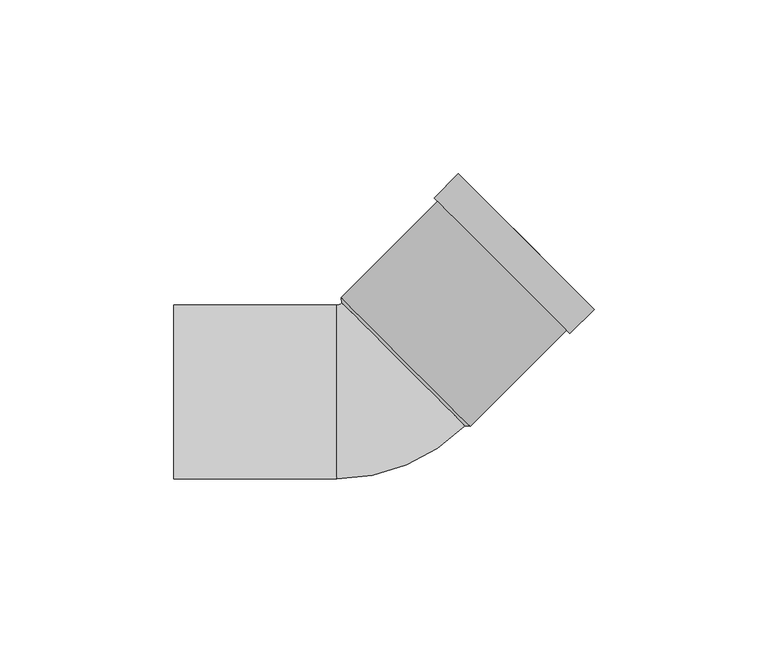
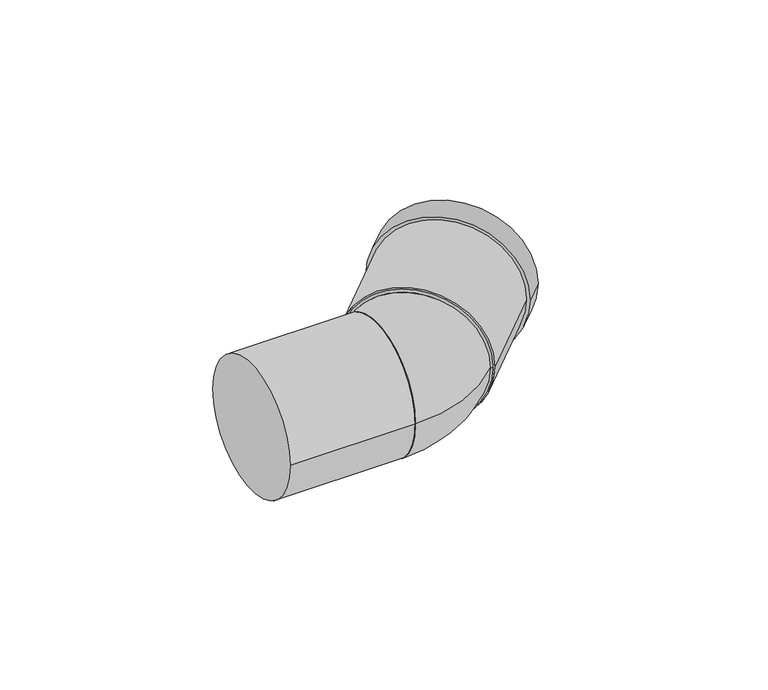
"""IFC4 building model written with IfcOpenShell, lengths in millimetres: pipe fitting geometry, Superdrain HT bend : Superdrain HT Bend."""

from ifc_helpers import new_model, si_unit, point, frame, origin, origin_2d, place, context, project, spatial, polyline, circle_curve, ellipse_curve, trimmed, segment, composite_curve, outline, extrude, source, transform, mapped, element, save
from ifc_brep_helpers import plane_surface, revolved_surface, advanced_brep


def pipe_fitting_6273c53c(model_context):
    return source(origin(), model_context, "Body", "SolidModel", [
        advanced_brep(
        [(25.5972655, -9.7580736, 0.0), (-9.7580736, 25.5972655, 0.0), (-11.2, -25.0, 0.0), (-11.2, 25.0, 0.0)],
        [
            (0, 1, circle_curve(frame((7.9195959, 7.9195959, 0.0), z_axis=(0.7071067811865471, 0.7071067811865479, 0.0), x_axis=(-0.7071067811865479, 0.7071067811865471, 0.0)), 25.0)),
            (1, 0, circle_curve(frame((7.9195959, 7.9195959, 0.0), z_axis=(0.7071067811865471, 0.7071067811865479, 0.0), x_axis=(-0.7071067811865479, 0.7071067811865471, 0.0)), 25.0)),
            (2, 3, circle_curve(frame((-11.2, 0.0, 0.0), z_axis=(-1.0, 0.0, 0.0), x_axis=(0.0, 1.0, 0.0)), 25.0)),
            (3, 2, circle_curve(frame((-11.2, 0.0, 0.0), z_axis=(-1.0, 0.0, 0.0), x_axis=(0.0, 1.0, 0.0)), 25.0)),
            (3, 1, circle_curve(frame((-11.2, 27.0391919, 0.0), z_axis=(0.0, 0.0, 1.0), x_axis=(1.0, 0.0, 0.0)), 2.0391919)),
            (0, 2, circle_curve(frame((-11.2, 27.0391919, 0.0), z_axis=(0.0, 0.0, -1.0), x_axis=(1.0, 0.0, 0.0)), 52.0391919)),
        ],
        [
            plane_surface(frame((7.9195959, 7.9195959, 0.0), z_axis=(0.707106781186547, 0.707106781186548, 0.0), x_axis=(0.0, 0.0, -1.0))),
            plane_surface(frame((-11.2, 0.0, 0.0), z_axis=(-1.0, 0.0, 0.0), x_axis=(0.0, 0.0, -1.0))),
            revolved_surface(trimmed(ellipse_curve(frame((15.8391919, 27.0391919, 0.0), z_axis=(0.0, -1.0, 0.0), x_axis=(-1.0, 0.0, 0.0)), 25.0, 25.0), [point((-9.1608081, 27.0391919, 0.0))], [point((40.8391919, 27.0391919, 0.0))], True, "CARTESIAN"), (-11.2, 27.0391919, 0.0), (0.0, 0.0, 1.0)),
            revolved_surface(trimmed(ellipse_curve(frame((15.8391919, 27.0391919, 0.0), z_axis=(0.0, -1.0, 0.0), x_axis=(-1.0, 0.0, 0.0)), 25.0, 25.0), [point((40.8391919, 27.0391919, 0.0))], [point((-9.1608081, 27.0391919, 0.0))], True, "CARTESIAN"), (-11.2, 27.0391919, 0.0), (0.0, 0.0, 1.0)),
        ],
        [
            (0, [[1, 2]]),
            (1, [[3, 4]]),
            (2, [[-4, 5, -1, 6]]),
            (3, [[-3, -6, -2, -5]]),
        ],
    ),
        extrude(outline(composite_curve([segment(trimmed(circle_curve(origin_2d(), 26.25), [point((0.0, 26.25))], [point((0.0, -26.25))], False, "CARTESIAN"), True, "CONTINUOUS"), segment(trimmed(circle_curve(origin_2d(), 26.25), [point((0.0, -26.25))], [point((0.0, 26.25))], False, "CARTESIAN"), True, "CONTINUOUS")], self_intersect=False), holes=[composite_curve([segment(trimmed(circle_curve(origin_2d(), 25.0), [point((0.0, 25.0))], [point((0.0, -25.0))], True, "CARTESIAN"), True, "CONTINUOUS"), segment(trimmed(circle_curve(origin_2d(), 25.0), [point((0.0, -25.0))], [point((0.0, 25.0))], True, "CARTESIAN"), True, "CONTINUOUS")], self_intersect=False)]), frame((8.6267027, 8.6267027, 0.0), z_axis=(0.707106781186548, 0.707106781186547, 0.0), x_axis=(0.0, 0.0, 1.0)), (0.0, 0.0, 1.0), 49.0),
        extrude(outline(composite_curve([segment(trimmed(circle_curve(origin_2d(), 27.5625), [point((0.0, -27.5625))], [point((0.0, 27.5625))], False, "CARTESIAN"), True, "CONTINUOUS"), segment(trimmed(circle_curve(origin_2d(), 27.5625), [point((0.0, 27.5625))], [point((0.0, -27.5625))], False, "CARTESIAN"), True, "CONTINUOUS")], self_intersect=False), holes=[composite_curve([segment(trimmed(circle_curve(origin_2d(), 25.0), [point((0.0, -25.0))], [point((0.0, 25.0))], True, "CARTESIAN"), True, "CONTINUOUS"), segment(trimmed(circle_curve(origin_2d(), 25.0), [point((0.0, 25.0))], [point((0.0, -25.0))], True, "CARTESIAN"), True, "CONTINUOUS")], self_intersect=False)]), frame((36.3452886, 36.3452886, 0.0), z_axis=(0.7071067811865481, 0.7071067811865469, 0.0), x_axis=(0.0, 0.0, 1.0)), (0.0, 0.0, 1.0), 9.8),
        advanced_brep(
        [(27.1882557, -9.9348503, 0.0), (-9.9348503, 27.1882557, 0.0), (25.5972655, -9.7580736, 0.0), (-9.7580736, 25.5972655, 0.0)],
        [
            (0, 1, circle_curve(frame((8.6267027, 8.6267027, 0.0), z_axis=(0.7071067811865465, 0.7071067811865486, 0.0), x_axis=(0.7071067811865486, -0.7071067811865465, 0.0)), 26.25)),
            (1, 0, circle_curve(frame((8.6267027, 8.6267027, 0.0), z_axis=(0.7071067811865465, 0.7071067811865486, 0.0), x_axis=(-0.7071067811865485, 0.7071067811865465, 0.0)), 26.25)),
            (2, 3, circle_curve(frame((7.9195959, 7.9195959, 0.0), z_axis=(-0.7071067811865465, -0.7071067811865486, 0.0), x_axis=(-0.7071067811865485, 0.7071067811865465, 0.0)), 25.0)),
            (3, 2, circle_curve(frame((7.9195959, 7.9195959, 0.0), z_axis=(-0.7071067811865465, -0.7071067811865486, 0.0), x_axis=(0.7071067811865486, -0.7071067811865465, 0.0)), 25.0)),
            (3, 1),
            (0, 2),
        ],
        [
            plane_surface(frame((8.6267027, 8.6267027, 0.0), z_axis=(0.707106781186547, 0.707106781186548, 0.0), x_axis=(0.0, 0.0, -1.0))),
            plane_surface(frame((7.9195959, 7.9195959, 0.0), z_axis=(-0.707106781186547, -0.707106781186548, 0.0), x_axis=(0.0, 0.0, -1.0))),
            revolved_surface(polyline([(-9.758073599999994, 25.597265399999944, 0.0), (-9.9348503, 27.1882557, 0.0)]), (-6.2225397, -6.2225397, 0.0), (0.7071067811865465, 0.7071067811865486, 0.0)),
            revolved_surface(polyline([(25.59726540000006, -9.758073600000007, 0.0), (27.188255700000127, -9.934850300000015, 0.0)]), (-6.2225397, -6.2225397, 0.0), (0.7071067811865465, 0.7071067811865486, 0.0)),
        ],
        [
            (0, [[1, 2]]),
            (1, [[3, 4]]),
            (2, [[-4, 5, -1, 6]]),
            (3, [[-3, -6, -2, -5]]),
        ],
    ),
        extrude(outline(composite_curve([segment(trimmed(circle_curve(origin_2d(), 25.0), [point((-25.0, 0.0))], [point((25.0, 0.0))], False, "CARTESIAN"), True, "CONTINUOUS"), segment(trimmed(circle_curve(origin_2d(), 25.0), [point((25.0, 0.0))], [point((-25.0, 0.0))], False, "CARTESIAN"), True, "CONTINUOUS")], self_intersect=False)), frame((-58.0, 0.0, 0.0), z_axis=(1.0, 0.0, 0.0), x_axis=(0.0, 1.0, 0.0)), (0.0, 0.0, 1.0), 46.8),
    ])


if __name__ == "__main__":
    model = new_model("IFC4")
    model_context = context("Model", 3, world=origin())
    ifc_project = project(units=[si_unit("LENGTHUNIT", "METRE", prefix="MILLI")], contexts=[model_context])
    site = spatial("IfcSite", under=ifc_project)
    building = spatial("IfcBuilding", under=site)
    placement = place(None, origin())
    pipe_fitting_shape = pipe_fitting_6273c53c(model_context)
    element("IfcPipeFitting", 1, ObjectType="Superdrain HT bend : Superdrain HT Bend", at=placement, inside=building, context=model_context, shape_type="MappedRepresentation", body=[
        mapped(pipe_fitting_shape, transform((0.0, 0.0, 0.0), x_axis=(1.0, 0.0, 0.0), y_axis=(0.0, 1.0, 0.0), z_axis=(0.0, 0.0, 1.0))),
    ])
    save(model, "model.ifc")
